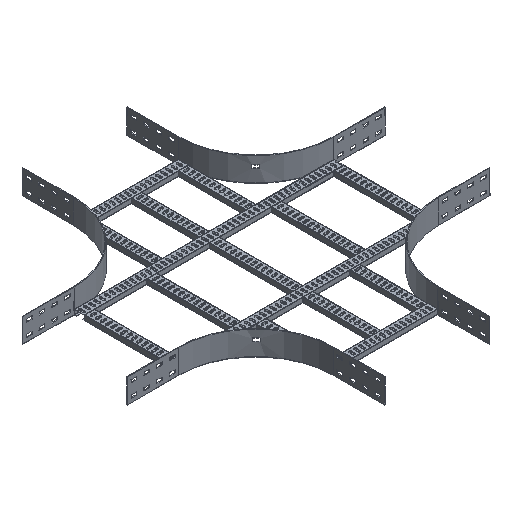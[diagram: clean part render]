
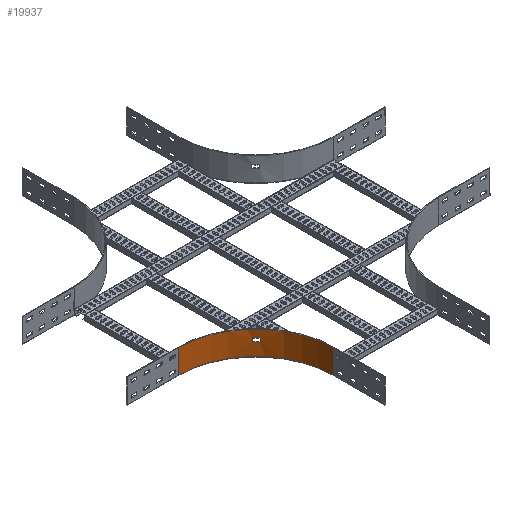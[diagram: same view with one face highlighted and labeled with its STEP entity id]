
A CAD part, isometric view. The second image highlights one B-rep face of the part: STEP entity #19937.
In plain terms, the highlighted cylindrical face has radius 300 mm (diameter 600 mm), a partial arc.
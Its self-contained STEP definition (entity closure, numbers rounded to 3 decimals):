
#523=FACE_BOUND('',#2879,.T.);
#925=CYLINDRICAL_SURFACE('',#20987,300.);
#978=CIRCLE('',#20979,300.);
#983=CIRCLE('',#20986,300.);
#984=CIRCLE('',#20988,300.);
#985=CIRCLE('',#20989,300.);
#1857=FACE_OUTER_BOUND('',#2878,.T.);
#2878=EDGE_LOOP('',(#13476,#13477,#13478,#13479));
#2879=EDGE_LOOP('',(#13480,#13481,#13482,#13483));
#4299=LINE('',#27725,#6391);
#4301=LINE('',#27731,#6393);
#4306=LINE('',#27755,#6398);
#4307=LINE('',#27758,#6399);
#6391=VECTOR('',#22557,304.8);
#6393=VECTOR('',#22561,304.8);
#6398=VECTOR('',#22588,304.8);
#6399=VECTOR('',#22591,304.8);
#8480=VERTEX_POINT('',#27718);
#8483=VERTEX_POINT('',#27723);
#8485=VERTEX_POINT('',#27728);
#8486=VERTEX_POINT('',#27730);
#8492=VERTEX_POINT('',#27751);
#8493=VERTEX_POINT('',#27752);
#8494=VERTEX_POINT('',#27754);
#8495=VERTEX_POINT('',#27756);
#10467=EDGE_CURVE('',#8483,#8480,#4299,.T.);
#10469=EDGE_CURVE('',#8485,#8486,#4301,.T.);
#10472=EDGE_CURVE('',#8480,#8485,#978,.T.);
#10479=EDGE_CURVE('',#8486,#8483,#983,.T.);
#10480=EDGE_CURVE('',#8492,#8493,#984,.T.);
#10481=EDGE_CURVE('',#8493,#8494,#4306,.T.);
#10482=EDGE_CURVE('',#8494,#8495,#985,.T.);
#10483=EDGE_CURVE('',#8495,#8492,#4307,.T.);
#13476=ORIENTED_EDGE('',*,*,#10467,.F.);
#13477=ORIENTED_EDGE('',*,*,#10479,.F.);
#13478=ORIENTED_EDGE('',*,*,#10469,.F.);
#13479=ORIENTED_EDGE('',*,*,#10472,.F.);
#13480=ORIENTED_EDGE('',*,*,#10480,.T.);
#13481=ORIENTED_EDGE('',*,*,#10481,.T.);
#13482=ORIENTED_EDGE('',*,*,#10482,.T.);
#13483=ORIENTED_EDGE('',*,*,#10483,.T.);
#19937=ADVANCED_FACE('',(#1857,#523),#925,.F.);
#20979=AXIS2_PLACEMENT_3D('',#27736,#22566,#22567);
#20986=AXIS2_PLACEMENT_3D('',#27749,#22582,#22583);
#20987=AXIS2_PLACEMENT_3D('',#27750,#22584,#22585);
#20988=AXIS2_PLACEMENT_3D('',#27753,#22586,#22587);
#20989=AXIS2_PLACEMENT_3D('',#27757,#22589,#22590);
#22557=DIRECTION('',(0.,0.,1.));
#22561=DIRECTION('',(0.,0.,-1.));
#22566=DIRECTION('center_axis',(0.,0.,-1.));
#22567=DIRECTION('ref_axis',(0.,1.,0.));
#22582=DIRECTION('center_axis',(0.,0.,1.));
#22583=DIRECTION('ref_axis',(0.,1.,0.));
#22584=DIRECTION('center_axis',(0.,0.,-1.));
#22585=DIRECTION('ref_axis',(0.,1.,0.));
#22586=DIRECTION('center_axis',(0.,0.,-1.));
#22587=DIRECTION('ref_axis',(0.,1.,0.));
#22588=DIRECTION('',(0.,0.,-1.));
#22589=DIRECTION('center_axis',(0.,0.,1.));
#22590=DIRECTION('ref_axis',(0.,1.,0.));
#22591=DIRECTION('',(0.,0.,1.));
#27718=CARTESIAN_POINT('',(-505.5,-205.5,47.));
#27723=CARTESIAN_POINT('',(-505.5,-205.5,-47.));
#27725=CARTESIAN_POINT('',(-505.5,-205.5,-47.));
#27728=CARTESIAN_POINT('',(-205.5,-505.5,47.));
#27730=CARTESIAN_POINT('',(-205.5,-505.5,-47.));
#27731=CARTESIAN_POINT('',(-205.5,-505.5,47.));
#27736=CARTESIAN_POINT('Origin',(-505.5,-505.5,47.));
#27749=CARTESIAN_POINT('Origin',(-505.5,-505.5,-47.));
#27750=CARTESIAN_POINT('Origin',(-505.5,-505.5,0.));
#27751=CARTESIAN_POINT('',(-301.26,-285.759,15.5));
#27752=CARTESIAN_POINT('',(-285.706,-301.318,15.5));
#27753=CARTESIAN_POINT('Origin',(-505.5,-505.5,15.5));
#27754=CARTESIAN_POINT('',(-285.706,-301.318,4.5));
#27755=CARTESIAN_POINT('',(-285.706,-301.318,15.5));
#27756=CARTESIAN_POINT('',(-301.26,-285.759,4.5));
#27757=CARTESIAN_POINT('Origin',(-505.5,-505.5,4.5));
#27758=CARTESIAN_POINT('',(-301.26,-285.759,4.5));
